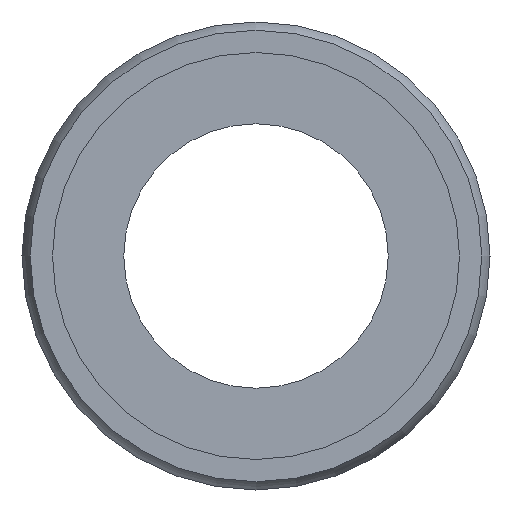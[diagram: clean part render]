
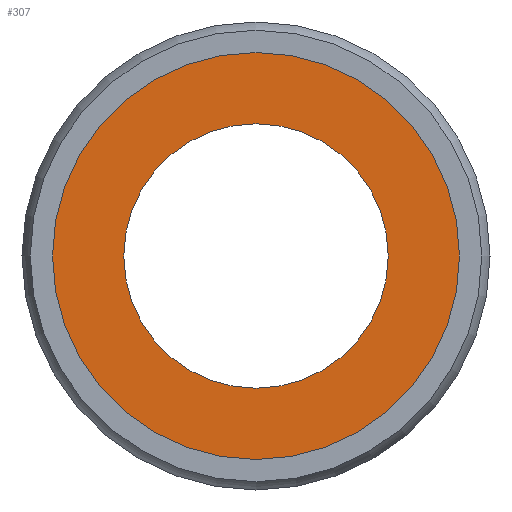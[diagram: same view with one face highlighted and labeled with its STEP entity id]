
A CAD part, left-side view. The second image highlights one B-rep face of the part: STEP entity #307.
In plain terms, the highlighted planar face has unit normal (-1, 0, 0).
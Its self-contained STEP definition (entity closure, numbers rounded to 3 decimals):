
#280=CARTESIAN_POINT('',(0.1,0.0,8.25));
#281=DIRECTION('',(-1.0,0.0,0.0));
#282=DIRECTION('',(0.0,0.0,1.0));
#283=AXIS2_PLACEMENT_3D('',#280,#281,#282);
#284=PLANE('',#283);
#285=CARTESIAN_POINT('',(0.1,0.0,10.));
#286=VERTEX_POINT('',#285);
#287=CARTESIAN_POINT('',(0.1,0.0,0.));
#288=DIRECTION('',(1.0,0.0,0.0));
#289=DIRECTION('',(0.0,0.0,1.0));
#290=AXIS2_PLACEMENT_3D('',#287,#288,#289);
#291=CIRCLE('',#290,10.);
#292=EDGE_CURVE('',#286,#286,#291,.T.);
#293=ORIENTED_EDGE('',*,*,#292,.F.);
#294=EDGE_LOOP('',(#293));
#295=FACE_OUTER_BOUND('',#294,.T.);
#296=CARTESIAN_POINT('',(0.1,0.0,6.5));
#297=VERTEX_POINT('',#296);
#298=CARTESIAN_POINT('',(0.1,0.0,0.));
#299=DIRECTION('',(-1.0,0.0,0.0));
#300=DIRECTION('',(0.0,0.0,1.0));
#301=AXIS2_PLACEMENT_3D('',#298,#299,#300);
#302=CIRCLE('',#301,6.5);
#303=EDGE_CURVE('',#297,#297,#302,.T.);
#304=ORIENTED_EDGE('',*,*,#303,.F.);
#305=EDGE_LOOP('',(#304));
#306=FACE_BOUND('',#305,.T.);
#307=ADVANCED_FACE('',(#295,#306),#284,.T.);
